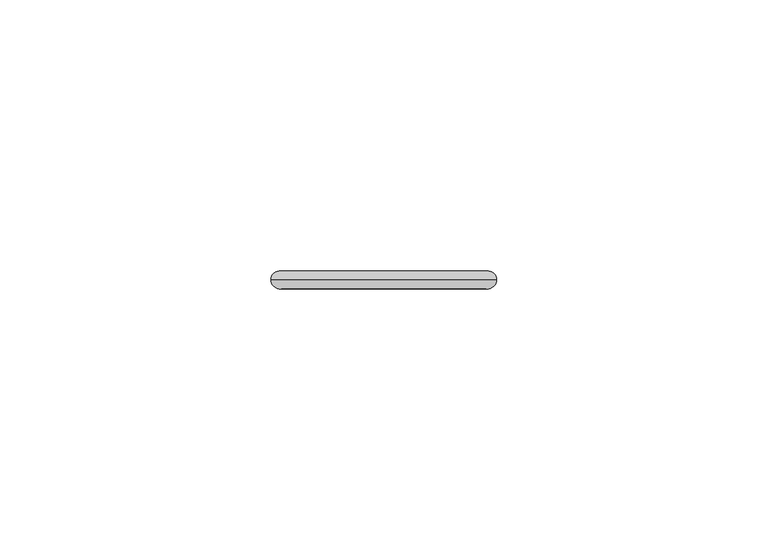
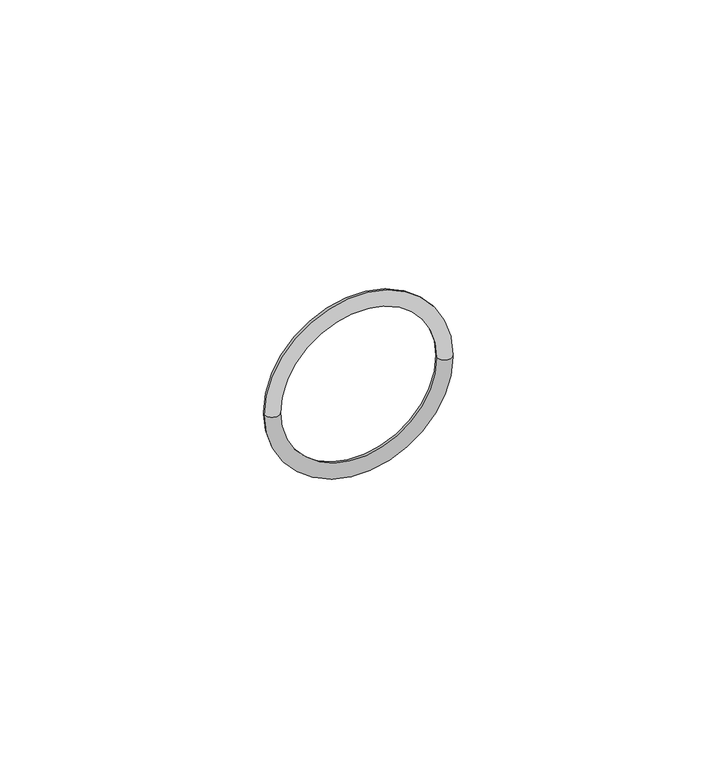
"""IFC4 building model written with IfcOpenShell, lengths in millimetres: pipe fitting geometry, VALTEC_VTi.990.I_Уплотнительное кольцо из FPM : VTi.990.I."""

from ifc_helpers import new_model, si_unit, point, frame, origin, place, context, project, spatial, circle_curve, ellipse_curve, trimmed, source, transform, mapped, element, save
from ifc_brep_helpers import revolved_surface, advanced_brep


def pipe_fitting_b67c6c8f(model_context):
    return source(origin(), model_context, "Body", "AdvancedBrep", [
        advanced_brep(
        [(17.5, 0.0, 0.0), (-17.5, 0.0, 0.0), (-20.8, 0.0, 0.0), (20.8, 0.0, 0.0)],
        [
            (0, 1, circle_curve(frame((0.0, 0.0, 0.0), z_axis=(0.0, 1.0, 0.0), x_axis=(-1.0, 0.0, 0.0)), 17.5)),
            (1, 2, circle_curve(frame((-19.15, 0.0, 0.0), z_axis=(0.0, 0.0, -1.0), x_axis=(1.0, 0.0, 0.0)), 1.65)),
            (2, 3, circle_curve(frame((0.0, 0.0, 0.0), z_axis=(0.0, -1.0, 0.0), x_axis=(-1.0, 0.0, 0.0)), 20.8)),
            (3, 0, circle_curve(frame((19.15, 0.0, 0.0), z_axis=(0.0, 0.0, -1.0), x_axis=(-1.0, 0.0, 0.0)), 1.65)),
            (1, 0, circle_curve(frame((0.0, 0.0, 0.0), z_axis=(0.0, 1.0, 0.0), x_axis=(-1.0, 0.0, 0.0)), 17.5)),
            (3, 2, circle_curve(frame((0.0, 0.0, 0.0), z_axis=(0.0, -1.0, 0.0), x_axis=(-1.0, 0.0, 0.0)), 20.8)),
            (2, 1, circle_curve(frame((-19.15, 0.0, 0.0), z_axis=(0.0, 0.0, -1.0), x_axis=(1.0, 0.0, 0.0)), 1.65)),
            (0, 3, circle_curve(frame((19.15, 0.0, 0.0), z_axis=(0.0, 0.0, -1.0), x_axis=(-1.0, 0.0, 0.0)), 1.65)),
        ],
        [
            revolved_surface(trimmed(ellipse_curve(frame((-19.15, 0.0, 0.0), z_axis=(0.0, 0.0, 1.0), x_axis=(1.0, 0.0, 0.0)), 1.65, 1.65), [point((-20.8, 0.0, 0.0))], [point((-17.5, 0.0, 0.0))], True, "CARTESIAN"), (0.0, 1.0336847, 0.0), (0.0, -1.0, 0.0)),
            revolved_surface(trimmed(ellipse_curve(frame((-19.15, 0.0, 0.0), z_axis=(0.0, 0.0, 1.0), x_axis=(1.0, 0.0, 0.0)), 1.65, 1.65), [point((-17.5, 0.0, 0.0))], [point((-20.8, 0.0, 0.0))], True, "CARTESIAN"), (0.0, 1.0336847, 0.0), (0.0, -1.0, 0.0)),
        ],
        [
            (0, [[1, 2, 3, 4]]),
            (0, [[5, -4, 6, -2]]),
            (1, [[-3, 7, -1, 8]]),
            (1, [[-6, -8, -5, -7]]),
        ],
    ),
    ])


if __name__ == "__main__":
    model = new_model("IFC4")
    model_context = context("Model", 3, world=origin())
    ifc_project = project(units=[si_unit("LENGTHUNIT", "METRE", prefix="MILLI")], contexts=[model_context])
    site = spatial("IfcSite", under=ifc_project)
    building = spatial("IfcBuilding", under=site)
    placement = place(None, origin())
    pipe_fitting_shape = pipe_fitting_b67c6c8f(model_context)
    element("IfcPipeFitting", 1, ObjectType="VALTEC_VTi.990.I_Уплотнительное кольцо из FPM : VTi.990.I", at=placement, inside=building, context=model_context, shape_type="MappedRepresentation", body=[
        mapped(pipe_fitting_shape, transform((0.0, 0.0, 0.0), x_axis=(1.0, 0.0, 0.0), y_axis=(0.0, 1.0, 0.0), z_axis=(0.0, 0.0, 1.0))),
    ])
    save(model, "model.ifc")
